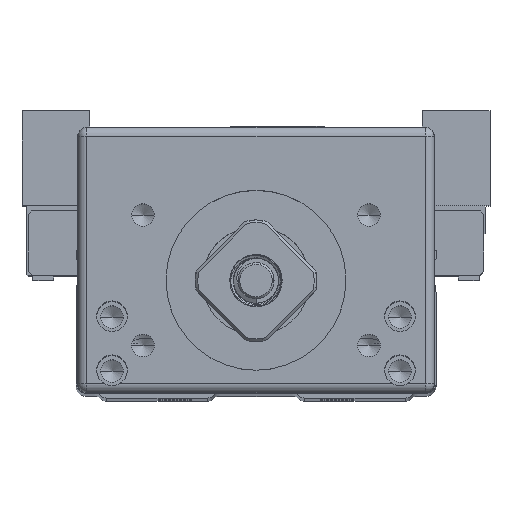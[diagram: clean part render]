
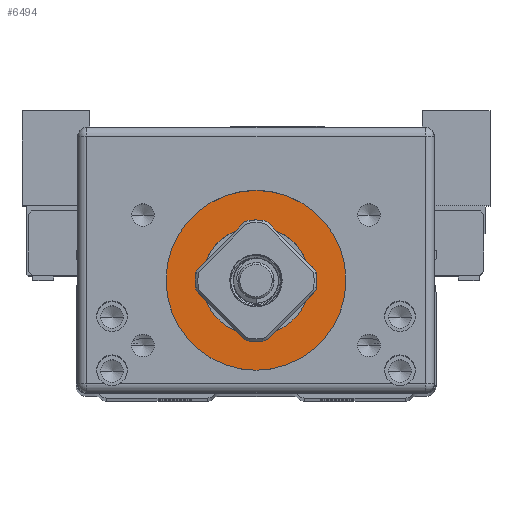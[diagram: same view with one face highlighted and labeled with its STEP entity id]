
A CAD part, top view. The second image highlights one B-rep face of the part: STEP entity #6494.
In plain terms, the highlighted planar face has unit normal (0, 0, 1).
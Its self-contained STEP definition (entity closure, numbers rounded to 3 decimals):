
#5 = LINE ( 'NONE', #29163, #8635 ) ;
#162 = PLANE ( 'NONE',  #35021 ) ;
#776 = VERTEX_POINT ( 'NONE', #40742 ) ;
#866 = EDGE_CURVE ( 'NONE', #22521, #10542, #12284, .T. ) ;
#995 = CARTESIAN_POINT ( 'NONE',  ( -12., 29., 13. ) ) ;
#1753 = EDGE_CURVE ( 'NONE', #3263, #6444, #32216, .T. ) ;
#2380 = EDGE_CURVE ( 'NONE', #3263, #41439, #35593, .T. ) ;
#2547 = ORIENTED_EDGE ( 'NONE', *, *, #6127, .T. ) ;
#3041 = EDGE_CURVE ( 'NONE', #39722, #22521, #44738, .T. ) ;
#3192 = VERTEX_POINT ( 'NONE', #5259 ) ;
#3205 = DIRECTION ( 'NONE',  ( 0., -1., 0. ) ) ;
#3263 = VERTEX_POINT ( 'NONE', #31444 ) ;
#3322 = EDGE_CURVE ( 'NONE', #32527, #9238, #35606, .T. ) ;
#4173 = CARTESIAN_POINT ( 'NONE',  ( 7.599, 6.5, 13. ) ) ;
#4435 = CARTESIAN_POINT ( 'NONE',  ( -6., 13., 13. ) ) ;
#4867 = CARTESIAN_POINT ( 'NONE',  ( -11.8, 6.5, 13. ) ) ;
#5259 = CARTESIAN_POINT ( 'NONE',  ( -12., 29., 13. ) ) ;
#6127 = EDGE_CURVE ( 'NONE', #3192, #25432, #44285, .T. ) ;
#6444 = VERTEX_POINT ( 'NONE', #43740 ) ;
#6494 = ADVANCED_FACE ( 'NONE', ( #13408, #42504 ), #162, .F. ) ;
#6596 = CARTESIAN_POINT ( 'NONE',  ( 0., 13., 13. ) ) ;
#6766 = CARTESIAN_POINT ( 'NONE',  ( 11.8, 24., 13. ) ) ;
#7276 = DIRECTION ( 'NONE',  ( -1., 0., 0. ) ) ;
#7529 = DIRECTION ( 'NONE',  ( 0., -1., 0. ) ) ;
#8635 = VECTOR ( 'NONE', #47300, 1000. ) ;
#8707 = ORIENTED_EDGE ( 'NONE', *, *, #45442, .T. ) ;
#8937 = LINE ( 'NONE', #9608, #34623 ) ;
#9238 = VERTEX_POINT ( 'NONE', #32436 ) ;
#9424 = ORIENTED_EDGE ( 'NONE', *, *, #39255, .F. ) ;
#9608 = CARTESIAN_POINT ( 'NONE',  ( -12., 29., 13. ) ) ;
#9646 = CARTESIAN_POINT ( 'NONE',  ( -11.8, 24., 13. ) ) ;
#10222 = EDGE_LOOP ( 'NONE', ( #8707, #42256 ) ) ;
#10276 = DIRECTION ( 'NONE',  ( -0.76, -0.65, 0. ) ) ;
#10423 = CARTESIAN_POINT ( 'NONE',  ( -12., 24., 13. ) ) ;
#10542 = VERTEX_POINT ( 'NONE', #6766 ) ;
#11707 = CARTESIAN_POINT ( 'NONE',  ( -11.8, 6.5, 13. ) ) ;
#11718 = EDGE_CURVE ( 'NONE', #46208, #25432, #41681, .T. ) ;
#11852 = CARTESIAN_POINT ( 'NONE',  ( 0., 13., 13. ) ) ;
#11917 = ORIENTED_EDGE ( 'NONE', *, *, #32878, .T. ) ;
#12284 = LINE ( 'NONE', #31087, #19650 ) ;
#12666 = CIRCLE ( 'NONE', #39323, 10. ) ;
#12775 = EDGE_CURVE ( 'NONE', #37604, #10542, #5, .T. ) ;
#12781 = VECTOR ( 'NONE', #44968, 1000. ) ;
#13313 = DIRECTION ( 'NONE',  ( 0., 0., 1. ) ) ;
#13408 = FACE_BOUND ( 'NONE', #10222, .T. ) ;
#14340 = ORIENTED_EDGE ( 'NONE', *, *, #43109, .F. ) ;
#14456 = VECTOR ( 'NONE', #33551, 1000. ) ;
#14687 = CARTESIAN_POINT ( 'NONE',  ( 7.599, 6.5, 13. ) ) ;
#14837 = CIRCLE ( 'NONE', #25451, 6. ) ;
#14996 = VECTOR ( 'NONE', #15361, 1000. ) ;
#15143 = VECTOR ( 'NONE', #30217, 1000. ) ;
#15161 = LINE ( 'NONE', #42741, #33471 ) ;
#15361 = DIRECTION ( 'NONE',  ( 0., 1., 0. ) ) ;
#15483 = DIRECTION ( 'NONE',  ( 1., 0., 0. ) ) ;
#17003 = CARTESIAN_POINT ( 'NONE',  ( 5.3, 1.5, 13. ) ) ;
#18565 = EDGE_LOOP ( 'NONE', ( #34133, #44902, #9424, #31938, #44394, #11917, #19232, #21401, #29573, #14340, #26168, #2547, #22140, #39851 ) ) ;
#19009 = AXIS2_PLACEMENT_3D ( 'NONE', #35209, #13313, #38844 ) ;
#19034 = VERTEX_POINT ( 'NONE', #31805 ) ;
#19232 = ORIENTED_EDGE ( 'NONE', *, *, #3041, .T. ) ;
#19650 = VECTOR ( 'NONE', #32942, 1000. ) ;
#20440 = EDGE_CURVE ( 'NONE', #19034, #25427, #12666, .T. ) ;
#20860 = DIRECTION ( 'NONE',  ( 0., 0., -1. ) ) ;
#21289 = LINE ( 'NONE', #43421, #38451 ) ;
#21401 = ORIENTED_EDGE ( 'NONE', *, *, #866, .T. ) ;
#22140 = ORIENTED_EDGE ( 'NONE', *, *, #11718, .F. ) ;
#22205 = CARTESIAN_POINT ( 'NONE',  ( 5.3, 4.52, 13. ) ) ;
#22521 = VERTEX_POINT ( 'NONE', #40312 ) ;
#22669 = EDGE_CURVE ( 'NONE', #25507, #19034, #38698, .T. ) ;
#23062 = DIRECTION ( 'NONE',  ( 1., 0., 0. ) ) ;
#25427 = VERTEX_POINT ( 'NONE', #32322 ) ;
#25432 = VERTEX_POINT ( 'NONE', #10423 ) ;
#25451 = AXIS2_PLACEMENT_3D ( 'NONE', #11852, #37383, #15483 ) ;
#25507 = VERTEX_POINT ( 'NONE', #11707 ) ;
#25727 = CARTESIAN_POINT ( 'NONE',  ( -19.8, 24., 13. ) ) ;
#26168 = ORIENTED_EDGE ( 'NONE', *, *, #39207, .F. ) ;
#26593 = VECTOR ( 'NONE', #35185, 1000. ) ;
#27508 = CIRCLE ( 'NONE', #19009, 10. ) ;
#27857 = VECTOR ( 'NONE', #23062, 1000. ) ;
#29163 = CARTESIAN_POINT ( 'NONE',  ( 12., 24., 13. ) ) ;
#29402 = DIRECTION ( 'NONE',  ( 0., 0., -1. ) ) ;
#29573 = ORIENTED_EDGE ( 'NONE', *, *, #12775, .F. ) ;
#30217 = DIRECTION ( 'NONE',  ( 0., -1., 0. ) ) ;
#31087 = CARTESIAN_POINT ( 'NONE',  ( 11.8, 6.5, 13. ) ) ;
#31444 = CARTESIAN_POINT ( 'NONE',  ( 5.3, 1.5, 13. ) ) ;
#31636 = DIRECTION ( 'NONE',  ( 1., 0., 0. ) ) ;
#31793 = DIRECTION ( 'NONE',  ( 0., 1., 0. ) ) ;
#31805 = CARTESIAN_POINT ( 'NONE',  ( -7.599, 6.5, 13. ) ) ;
#31938 = ORIENTED_EDGE ( 'NONE', *, *, #1753, .F. ) ;
#32005 = VECTOR ( 'NONE', #7276, 1000. ) ;
#32174 = DIRECTION ( 'NONE',  ( 0., 0., 1. ) ) ;
#32216 = LINE ( 'NONE', #17003, #12781 ) ;
#32322 = CARTESIAN_POINT ( 'NONE',  ( -5.3, 4.52, 13. ) ) ;
#32436 = CARTESIAN_POINT ( 'NONE',  ( 6., 13., 13. ) ) ;
#32509 = CARTESIAN_POINT ( 'NONE',  ( -11.8, 24., 13. ) ) ;
#32527 = VERTEX_POINT ( 'NONE', #4435 ) ;
#32878 = EDGE_CURVE ( 'NONE', #41439, #39722, #27508, .T. ) ;
#32942 = DIRECTION ( 'NONE',  ( 0., 1., 0. ) ) ;
#33471 = VECTOR ( 'NONE', #31793, 1000. ) ;
#33551 = DIRECTION ( 'NONE',  ( 1., 0., 0. ) ) ;
#34133 = ORIENTED_EDGE ( 'NONE', *, *, #22669, .T. ) ;
#34623 = VECTOR ( 'NONE', #31636, 1000. ) ;
#35021 = AXIS2_PLACEMENT_3D ( 'NONE', #25727, #29402, #7529 ) ;
#35185 = DIRECTION ( 'NONE',  ( 0., -1., 0. ) ) ;
#35209 = CARTESIAN_POINT ( 'NONE',  ( 0., 13., 13. ) ) ;
#35593 = LINE ( 'NONE', #41072, #14996 ) ;
#35606 = CIRCLE ( 'NONE', #37637, 6. ) ;
#37383 = DIRECTION ( 'NONE',  ( 0., 0., -1. ) ) ;
#37463 = LINE ( 'NONE', #9646, #26593 ) ;
#37604 = VERTEX_POINT ( 'NONE', #39738 ) ;
#37637 = AXIS2_PLACEMENT_3D ( 'NONE', #42711, #20860, #46347 ) ;
#38451 = VECTOR ( 'NONE', #3205, 1000. ) ;
#38698 = LINE ( 'NONE', #4867, #27857 ) ;
#38844 = DIRECTION ( 'NONE',  ( 0.53, -0.848, 0. ) ) ;
#39207 = EDGE_CURVE ( 'NONE', #3192, #776, #8937, .T. ) ;
#39255 = EDGE_CURVE ( 'NONE', #6444, #25427, #15161, .T. ) ;
#39323 = AXIS2_PLACEMENT_3D ( 'NONE', #6596, #32174, #10276 ) ;
#39722 = VERTEX_POINT ( 'NONE', #14687 ) ;
#39738 = CARTESIAN_POINT ( 'NONE',  ( 12., 24., 13. ) ) ;
#39851 = ORIENTED_EDGE ( 'NONE', *, *, #41182, .T. ) ;
#40152 = CARTESIAN_POINT ( 'NONE',  ( -11.8, 24., 13. ) ) ;
#40312 = CARTESIAN_POINT ( 'NONE',  ( 11.8, 6.5, 13. ) ) ;
#40742 = CARTESIAN_POINT ( 'NONE',  ( 12., 29., 13. ) ) ;
#41072 = CARTESIAN_POINT ( 'NONE',  ( 5.3, 1.5, 13. ) ) ;
#41182 = EDGE_CURVE ( 'NONE', #46208, #25507, #37463, .T. ) ;
#41439 = VERTEX_POINT ( 'NONE', #22205 ) ;
#41681 = LINE ( 'NONE', #40152, #32005 ) ;
#42256 = ORIENTED_EDGE ( 'NONE', *, *, #3322, .T. ) ;
#42504 = FACE_OUTER_BOUND ( 'NONE', #18565, .T. ) ;
#42711 = CARTESIAN_POINT ( 'NONE',  ( 0., 13., 13. ) ) ;
#42741 = CARTESIAN_POINT ( 'NONE',  ( -5.3, 1.5, 13. ) ) ;
#43109 = EDGE_CURVE ( 'NONE', #776, #37604, #21289, .T. ) ;
#43421 = CARTESIAN_POINT ( 'NONE',  ( 12., 29., 13. ) ) ;
#43740 = CARTESIAN_POINT ( 'NONE',  ( -5.3, 1.5, 13. ) ) ;
#44285 = LINE ( 'NONE', #995, #15143 ) ;
#44394 = ORIENTED_EDGE ( 'NONE', *, *, #2380, .T. ) ;
#44738 = LINE ( 'NONE', #4173, #14456 ) ;
#44902 = ORIENTED_EDGE ( 'NONE', *, *, #20440, .T. ) ;
#44968 = DIRECTION ( 'NONE',  ( -1., 0., 0. ) ) ;
#45442 = EDGE_CURVE ( 'NONE', #9238, #32527, #14837, .T. ) ;
#46208 = VERTEX_POINT ( 'NONE', #32509 ) ;
#46347 = DIRECTION ( 'NONE',  ( -1., 0., 0. ) ) ;
#47300 = DIRECTION ( 'NONE',  ( -1., 0., 0. ) ) ;
